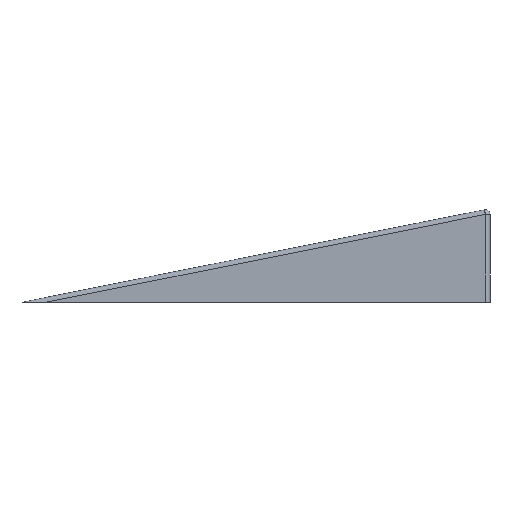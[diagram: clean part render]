
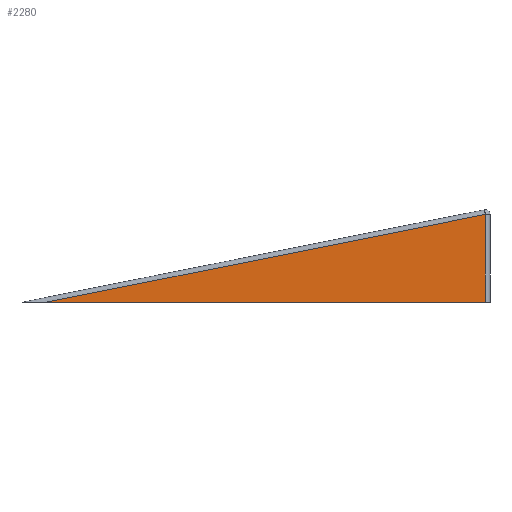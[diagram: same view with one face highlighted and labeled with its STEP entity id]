
A CAD part, front view. The second image highlights one B-rep face of the part: STEP entity #2280.
In plain terms, the highlighted planar face has unit normal (0, -1, 0).
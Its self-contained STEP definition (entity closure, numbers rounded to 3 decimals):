
#265=PLANE('',#2428);
#307=LINE('',#2795,#497);
#310=LINE('',#2803,#500);
#314=LINE('',#2810,#504);
#497=VECTOR('',#2498,10.);
#500=VECTOR('',#2507,10.);
#504=VECTOR('',#2517,10.);
#696=FACE_OUTER_BOUND('',#820,.T.);
#820=EDGE_LOOP('',(#1582,#1583,#1584));
#958=VERTEX_POINT('',#2784);
#961=VERTEX_POINT('',#2791);
#964=VERTEX_POINT('',#2801);
#1203=EDGE_CURVE('',#958,#961,#307,.T.);
#1207=EDGE_CURVE('',#964,#958,#310,.T.);
#1211=EDGE_CURVE('',#964,#961,#314,.T.);
#1582=ORIENTED_EDGE('',*,*,#1207,.F.);
#1583=ORIENTED_EDGE('',*,*,#1211,.T.);
#1584=ORIENTED_EDGE('',*,*,#1203,.F.);
#2280=ADVANCED_FACE('',(#696),#265,.T.);
#2428=AXIS2_PLACEMENT_3D('',#2809,#2515,#2516);
#2498=DIRECTION('',(0.,0.,-1.));
#2507=DIRECTION('',(0.981,0.,0.196));
#2515=DIRECTION('center_axis',(0.,-1.,0.));
#2516=DIRECTION('ref_axis',(1.,0.,0.));
#2517=DIRECTION('',(1.,0.,0.));
#2784=CARTESIAN_POINT('',(99.,0.,18.78));
#2791=CARTESIAN_POINT('',(99.,0.,0.));
#2795=CARTESIAN_POINT('',(99.,0.,0.));
#2801=CARTESIAN_POINT('',(5.099,0.,0.));
#2803=CARTESIAN_POINT('',(50.196,0.,9.019));
#2809=CARTESIAN_POINT('Origin',(0.,0.,0.));
#2810=CARTESIAN_POINT('',(0.,0.,0.));
